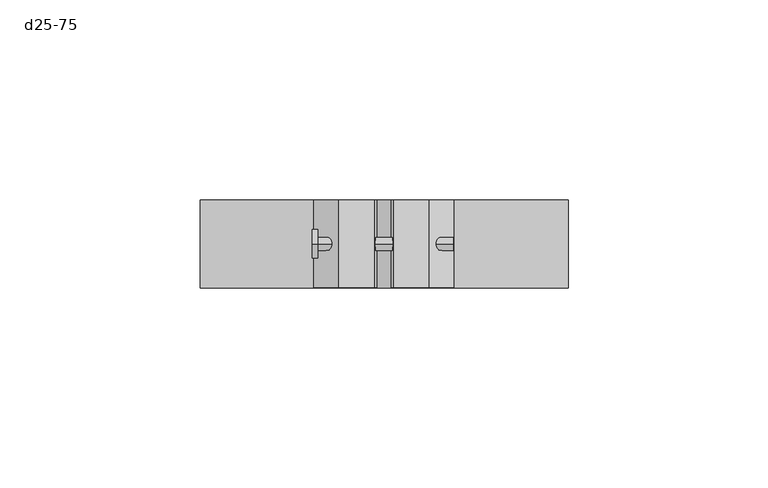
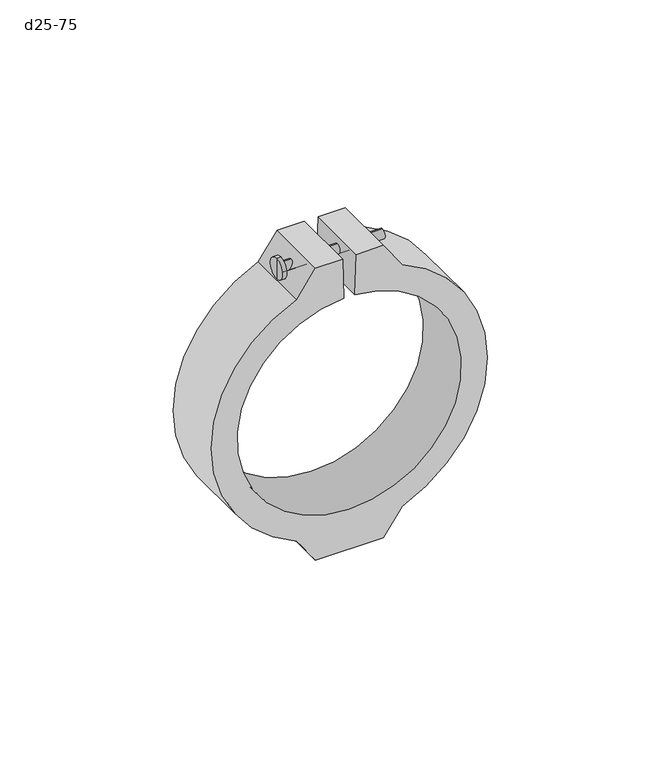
"""IFC4 building model written with IfcOpenShell, lengths in millimetres: pipe fitting geometry, NLRS_50_PIF_UN_FlowFit vastpuntbevestiging_Geberit : d25-75."""

import ifcopenshell
import ifcopenshell.guid

model = None  # the IFC model being written
_history = None  # IfcOwnerHistory: only IFC2X3 demands one
_inside = {}  # id of a spatial element -> (the spatial element, [elements in it])
_under = {}  # id of a project, library or spatial element -> (it, [spatial elements below it])
_declared = {}  # id of a project -> (the project, [libraries it declares])
_typed = {}  # id of a type object -> (the type object, [elements of that type])
_made_of = {}  # id of a material, layer set ... -> (it, [elements and type objects made of it])


def new_model(schema):
    """Start an empty IFC model of exactly this schema.

    Asked for "IFC4X3", IfcOpenShell would pick the latest addendum, in which some entities
    have other attributes; the version numbers below select the first issue.
    IFC2X3 requires an IfcOwnerHistory on every rooted entity: one is made here for all.
    """
    global model, _history
    if schema == "IFC4X3":
        model = ifcopenshell.file(schema_version=(4, 3, 0, 0))
    else:
        model = ifcopenshell.file(schema=schema)
    _inside.clear()
    _under.clear()
    _declared.clear()
    _typed.clear()
    _made_of.clear()
    _history = None
    if model.schema == "IFC2X3":
        org = make("IfcOrganization", Name="unknown")
        user = make(
            "IfcPersonAndOrganization",
            ThePerson=make("IfcPerson", FamilyName="unknown"),
            TheOrganization=org,
        )
        app = make(
            "IfcApplication",
            ApplicationDeveloper=org,
            Version="unknown",
            ApplicationFullName="unknown",
            ApplicationIdentifier="unknown",
        )
        _history = make(
            "IfcOwnerHistory",
            OwningUser=user,
            OwningApplication=app,
            ChangeAction="ADDED",
            CreationDate=0,
        )
    return model


def make(cls, **values):
    """One entity of the class cls with the attributes given. An attribute that is None is left unset."""
    return model.create_entity(
        cls, **{name: value for name, value in values.items() if value is not None}
    )


def rooted(cls, **values):
    """An entity with a GlobalId (a new one), such as an element, a storey or a relation."""
    return make(cls, GlobalId=ifcopenshell.guid.new(), OwnerHistory=_history, **values)


def si_unit(unit_type, name, prefix=None):
    """IfcSIUnit, for example si_unit("LENGTHUNIT", "METRE", prefix="MILLI")."""
    return make("IfcSIUnit", UnitType=unit_type, Prefix=prefix, Name=name)


def assignment(units):
    """IfcUnitAssignment: the units of a project."""
    return None if units is None else make("IfcUnitAssignment", Units=units)


def point(xyz):
    """IfcCartesianPoint."""
    return None if xyz is None else make("IfcCartesianPoint", Coordinates=xyz)


def direction(xyz):
    """IfcDirection."""
    return None if xyz is None else make("IfcDirection", DirectionRatios=xyz)


def frame(location, z_axis=None, x_axis=None):
    """IfcAxis2Placement3D, a coordinate frame: its origin and axes. An axis left out is left unset."""
    return make(
        "IfcAxis2Placement3D",
        Location=point(location),
        Axis=direction(z_axis),
        RefDirection=direction(x_axis),
    )


def frame_2d(location, x_axis=None):
    """IfcAxis2Placement2D, a coordinate frame in the plane: its origin and x axis."""
    return make(
        "IfcAxis2Placement2D", Location=point(location), RefDirection=direction(x_axis)
    )


def origin():
    """The frame at (0, 0, 0) with its axes left unset."""
    return frame((0.0, 0.0, 0.0))


def origin_2d():
    """The frame at (0, 0) in the plane with its x axis left unset."""
    return frame_2d((0.0, 0.0))


def place(relative_to, where):
    """IfcLocalPlacement: puts the frame where relative to a parent placement (None: the world)."""
    return make(
        "IfcLocalPlacement", PlacementRelTo=relative_to, RelativePlacement=where
    )


def context(
    kind, dimensions, precision=None, world=None, true_north=None, identifier=None
):
    """IfcGeometricRepresentationContext, for example the 3D "Model" context."""
    return make(
        "IfcGeometricRepresentationContext",
        ContextIdentifier=identifier,
        ContextType=kind,
        CoordinateSpaceDimension=dimensions,
        Precision=precision,
        WorldCoordinateSystem=world,
        TrueNorth=true_north,
    )


def project(units=None, contexts=None):
    """IfcProject with its units and contexts."""
    return rooted(
        "IfcProject",
        Name="project",
        RepresentationContexts=contexts,
        UnitsInContext=assignment(units),
    )


def spatial(cls, under=None, at=None, **own):
    """A site, building, storey or space (cls), placed at a placement, below another one or the project."""
    s = rooted(cls, ObjectPlacement=at, **own)
    if under is not None:
        _under.setdefault(under.id(), (under, []))[1].append(s)
    return s


def polyline(points):
    """IfcPolyline through the points."""
    return make("IfcPolyline", Points=[point(p) for p in points])


def circle_curve(where, radius):
    """IfcCircle in the frame where."""
    return make("IfcCircle", Position=where, Radius=radius)


def trimmed(basis, trim1, trim2, sense, master):
    """IfcTrimmedCurve: the piece of a basis curve between two trims."""
    return make(
        "IfcTrimmedCurve",
        BasisCurve=basis,
        Trim1=trim1,
        Trim2=trim2,
        SenseAgreement=sense,
        MasterRepresentation=master,
    )


def segment(curve, same_sense, transition):
    """IfcCompositeCurveSegment."""
    return make(
        "IfcCompositeCurveSegment",
        Transition=transition,
        SameSense=same_sense,
        ParentCurve=curve,
    )


def composite_curve(segments, self_intersect=None):
    """IfcCompositeCurve: segments joined end to end."""
    return make("IfcCompositeCurve", Segments=segments, SelfIntersect=self_intersect)


def outline(outer, holes=None, kind="AREA"):
    """IfcArbitraryClosedProfileDef: a profile drawn as a closed curve; with holes, ...WithVoids."""
    if holes is None:
        return make("IfcArbitraryClosedProfileDef", ProfileType=kind, OuterCurve=outer)
    return make(
        "IfcArbitraryProfileDefWithVoids",
        ProfileType=kind,
        OuterCurve=outer,
        InnerCurves=holes,
    )


def extrude(swept, where, along, depth):
    """IfcExtrudedAreaSolid: the profile swept, set in the frame where, extruded along a direction by depth."""
    return make(
        "IfcExtrudedAreaSolid",
        SweptArea=swept,
        Position=where,
        ExtrudedDirection=direction(along),
        Depth=depth,
    )


def shape(context_of_items, identifier, shape_type, items):
    """IfcShapeRepresentation: the items that make up one representation, for example the "Body"."""
    return make(
        "IfcShapeRepresentation",
        ContextOfItems=context_of_items,
        RepresentationIdentifier=identifier,
        RepresentationType=shape_type,
        Items=items,
    )


def source(mapping_origin, context_of_items, identifier, shape_type, items):
    """IfcRepresentationMap: a shape defined once, which mapped items show again and again."""
    return make(
        "IfcRepresentationMap",
        MappingOrigin=mapping_origin,
        MappedRepresentation=shape(context_of_items, identifier, shape_type, items),
    )


def transform(
    local_origin,
    x_axis=None,
    y_axis=None,
    z_axis=None,
    scale=None,
    scale2=None,
    scale3=None,
    uniform=True,
):
    """IfcCartesianTransformationOperator3D, or its non-uniform kind. x_axis, y_axis, z_axis: its Axis1, 2, 3."""
    if uniform:
        return make(
            "IfcCartesianTransformationOperator3D",
            Axis1=direction(x_axis),
            Axis2=direction(y_axis),
            LocalOrigin=point(local_origin),
            Scale=scale,
            Axis3=direction(z_axis),
        )
    return make(
        "IfcCartesianTransformationOperator3DnonUniform",
        Axis1=direction(x_axis),
        Axis2=direction(y_axis),
        LocalOrigin=point(local_origin),
        Scale=scale,
        Axis3=direction(z_axis),
        Scale2=scale2,
        Scale3=scale3,
    )


def mapped(mapping_source, mapping_target):
    """IfcMappedItem: shows the shape of a source again, moved by a transform."""
    return make(
        "IfcMappedItem", MappingSource=mapping_source, MappingTarget=mapping_target
    )


def made_of(thing, what):
    """Note that an element or type object is made of a material, layer set ...; save() writes the relation."""
    if what is not None:
        _made_of.setdefault(what.id(), (what, []))[1].append(thing)
    return thing


def element(
    cls,
    number,
    at=None,
    inside=None,
    cuts=None,
    type_object=None,
    material=None,
    context=None,
    identifier="Body",
    shape_type=None,
    held_by="IfcProductDefinitionShape",
    body=None,
    shapes=None,
    **own,
):
    """One element of the class cls, such as IfcWall. Its Tag is "e" and its number.

    at: its placement. inside: the storey or other place that contains it. cuts: it is an
    opening in that element (IfcRelVoidsElement). A single representation is given by context,
    identifier, shape_type and body (its items); several are given by shapes. held_by: the class
    of the entity that holds the representations. save() writes the other relations.
    """
    e = rooted(cls, Tag="e%d" % number, ObjectPlacement=at, **own)
    if body is not None:
        shapes = [shape(context, identifier, shape_type, body)]
    if shapes is not None:
        e.Representation = make(held_by, Representations=shapes)
    if inside is not None:
        _inside.setdefault(inside.id(), (inside, []))[1].append(e)
    if cuts is not None:
        rooted(
            "IfcRelVoidsElement", RelatingBuildingElement=cuts, RelatedOpeningElement=e
        )
    if type_object is not None:
        _typed.setdefault(type_object.id(), (type_object, []))[1].append(e)
    return made_of(e, material)


def aggregate(whole, parts):
    """IfcRelAggregates: a whole, such as a stair, and the parts it consists of."""
    return rooted("IfcRelAggregates", RelatingObject=whole, RelatedObjects=parts)


def save(model, path):
    """Write the relations noted so far, then the file.

    IfcRelAggregates (storeys below a building ...), IfcRelContainedInSpatialStructure (elements
    in a storey), IfcRelDefinesByType, IfcRelAssociatesMaterial and IfcRelDeclares: one each for
    every whole, place, type object, material and project.
    """
    for whole, parts in _under.values():
        aggregate(whole, parts)
    for where, things in _inside.values():
        rooted(
            "IfcRelContainedInSpatialStructure",
            RelatedElements=things,
            RelatingStructure=where,
        )
    for kind, things in _typed.values():
        rooted("IfcRelDefinesByType", RelatedObjects=things, RelatingType=kind)
    for what, things in _made_of.values():
        rooted("IfcRelAssociatesMaterial", RelatedObjects=things, RelatingMaterial=what)
    for by, libraries in _declared.values():
        rooted("IfcRelDeclares", RelatingContext=by, RelatedDefinitions=libraries)
    model.write(path)


def plane_surface(at):
    """IfcPlane: the flat surface through the origin of the frame at, square to its z axis."""
    return make("IfcPlane", Position=at)


def cylinder_surface(at, radius):
    """IfcCylindricalSurface: all points at the distance radius from the z axis of the frame at."""
    return make("IfcCylindricalSurface", Position=at, Radius=radius)


def advanced_brep(points, edges, surfaces, faces):
    """IfcAdvancedBrep: a solid bounded by faces that lie on surfaces and meet in shared edges.

    An edge is (start, end): straight between two places in points (the first is 0);
    or (start, end, curve); or (start, end, curve, False) where it runs against its curve.
    A face is (place in surfaces, loops), or (place, loops, False) where it looks against
    its surface's normal. A loop lists edges by number (the first is 1), with a minus sign
    where the edge is run from its end to its start. The first loop is the outer one.
    """
    corners = [point(p) for p in points]
    vertices = [make("IfcVertexPoint", VertexGeometry=c) for c in corners]
    made = []
    for start, end, *more in edges:
        made.append(
            make(
                "IfcEdgeCurve",
                EdgeStart=vertices[start],
                EdgeEnd=vertices[end],
                EdgeGeometry=more[0] if more else make("IfcPolyline", Points=[corners[start], corners[end]]),
                SameSense=more[1] if len(more) > 1 else True,
            )
        )
    hull = []
    for where, loops, *sense in faces:
        bounds = []
        for j, loop in enumerate(loops):
            ring = [make("IfcOrientedEdge", EdgeElement=made[abs(k) - 1], Orientation=k > 0) for k in loop]
            bounds.append(
                make(
                    "IfcFaceOuterBound" if j == 0 else "IfcFaceBound",
                    Bound=make("IfcEdgeLoop", EdgeList=ring),
                    Orientation=True,
                )
            )
        hull.append(make("IfcAdvancedFace", Bounds=bounds, FaceSurface=surfaces[where], SameSense=sense[0] if sense else True))
    return make("IfcAdvancedBrep", Outer=make("IfcClosedShell", CfsFaces=hull))


def d25_75_3fb00f64(model_context):
    return source(origin(), model_context, "Body", "SolidModel", [
        advanced_brep(
        [(-16.5305911, 0.0, 45.3607905), (-16.5305911, 0.0, 48.6186568), (17.3432339, 0.0, 48.6186568), (17.3432339, 0.0, 45.3607905), (-16.5305911, 0.0, 43.400656), (-16.5305911, 0.0, 50.5787913), (-17.8766989, 0.0, 43.400656), (-17.8766989, 0.0, 50.5787913), (-17.8766989, 0.0, 46.9897236), (17.3432339, 0.0, 46.9897236)],
        [
            (0, 1, circle_curve(frame((-16.5305911, 0.0, 46.9897236), z_axis=(1.0, 0.0, 0.0), x_axis=(0.0, 0.0, 1.0)), 1.6289332)),
            (1, 2),
            (2, 3, circle_curve(frame((17.3432339, 0.0, 46.9897236), z_axis=(-1.0, 0.0, 0.0), x_axis=(0.0, 0.0, 1.0)), 1.6289332)),
            (3, 0),
            (1, 0, circle_curve(frame((-16.5305911, 0.0, 46.9897236), z_axis=(1.0, 0.0, 0.0), x_axis=(0.0, 0.0, 1.0)), 1.6289332)),
            (3, 2, circle_curve(frame((17.3432339, 0.0, 46.9897236), z_axis=(-1.0, 0.0, 0.0), x_axis=(0.0, 0.0, 1.0)), 1.6289332)),
            (4, 5, circle_curve(frame((-16.5305911, 0.0, 46.9897236), z_axis=(1.0, 0.0, 0.0), x_axis=(0.0, 0.0, 1.0)), 3.5890677)),
            (5, 1),
            (0, 4),
            (5, 4, circle_curve(frame((-16.5305911, 0.0, 46.9897236), z_axis=(1.0, 0.0, 0.0), x_axis=(0.0, 0.0, 1.0)), 3.5890677)),
            (6, 7, circle_curve(frame((-17.8766989, 0.0, 46.9897236), z_axis=(1.0, 0.0, 0.0), x_axis=(0.0, 0.0, 1.0)), 3.5890677)),
            (7, 5),
            (4, 6),
            (7, 6, circle_curve(frame((-17.8766989, 0.0, 46.9897236), z_axis=(1.0, 0.0, 0.0), x_axis=(0.0, 0.0, 1.0)), 3.5890677)),
            (8, 7),
            (6, 8),
            (2, 9),
            (9, 3),
        ],
        [
            cylinder_surface(frame((-16.3141989, 0.0, 46.9897236), z_axis=(-1.0, 0.0, 0.0), x_axis=(0.0, 0.0, 1.0)), 1.6289332),
            plane_surface(frame((-16.5305911, 0.0, 46.9897236), z_axis=(1.0, 0.0, 0.0), x_axis=(0.0, 0.0, 1.0))),
            cylinder_surface(frame((-16.3141989, 0.0, 46.9897236), z_axis=(-1.0, 0.0, 0.0), x_axis=(0.0, 0.0, 1.0)), 3.5890677),
            plane_surface(frame((-17.8766989, 0.0, 46.9897236), z_axis=(-1.0, 0.0, 0.0), x_axis=(0.0, 0.0, 1.0))),
            plane_surface(frame((17.3432339, 0.0, 46.9897236), z_axis=(1.0, 0.0, 0.0), x_axis=(0.0, 0.0, 1.0))),
        ],
        [
            (0, [[1, 2, 3, 4]]),
            (0, [[5, -4, 6, -2]]),
            (1, [[7, 8, -1, 9]]),
            (1, [[10, -9, -5, -8]]),
            (2, [[11, 12, -7, 13]]),
            (2, [[14, -13, -10, -12]]),
            (3, [[15, -11, 16]]),
            (3, [[-16, -14, -15]]),
            (4, [[-3, 17, 18]]),
            (4, [[-6, -18, -17]]),
        ],
    ),
        extrude(outline(composite_curve([segment(trimmed(circle_curve(origin_2d(), 37.5), [point((37.4547742, 1.8411653))], [point((37.4547742, -1.8411653))], True, "CARTESIAN"), True, "CONTINUOUS"), segment(polyline([(37.4547742, -1.8411653), (51.5, -2.2648784), (51.5, -11.3723711), (42.5099323, -17.5757121)]), True, "CONTINUOUS"), segment(trimmed(circle_curve(origin_2d(), 46.0), [point((42.5099323, -17.5757121))], [point((-42.5099323, -17.5757121))], False, "CARTESIAN"), True, "CONTINUOUS"), segment(polyline([(-42.5099323, -17.5757121), (-51.5, -11.3723711), (-51.5, 11.3723711), (-42.5099323, 17.5757121)]), True, "CONTINUOUS"), segment(trimmed(circle_curve(origin_2d(), 46.0), [point((-42.5099323, 17.5757121))], [point((42.5099323, 17.5757121))], False, "CARTESIAN"), True, "CONTINUOUS"), segment(polyline([(42.5099323, 17.5757121), (51.5, 11.3723711), (51.5, 2.2648784), (37.4547742, 1.8411653)]), True, "CONTINUOUS")], self_intersect=False)), frame((0.0, -11.0, 0.0), z_axis=(0.0, 1.0, 0.0), x_axis=(0.0, 0.0, 1.0)), (0.0, 0.0, 1.0), 22.0),
    ])


if __name__ == "__main__":
    model = new_model("IFC4")
    model_context = context("Model", 3, world=origin())
    ifc_project = project(units=[si_unit("LENGTHUNIT", "METRE", prefix="MILLI")], contexts=[model_context])
    site = spatial("IfcSite", under=ifc_project)
    building = spatial("IfcBuilding", under=site)
    placement = place(None, origin())
    d25_75_shape = d25_75_3fb00f64(model_context)
    element("IfcPipeFitting", 1, ObjectType="NLRS_50_PIF_UN_FlowFit vastpuntbevestiging_Geberit : d25-75", at=placement, inside=building, context=model_context, shape_type="MappedRepresentation", body=[
        mapped(d25_75_shape, transform((0.0, 0.0, 0.0), x_axis=(1.0, 0.0, 0.0), y_axis=(0.0, 1.0, 0.0), z_axis=(0.0, 0.0, 1.0))),
    ])
    save(model, "model.ifc")
